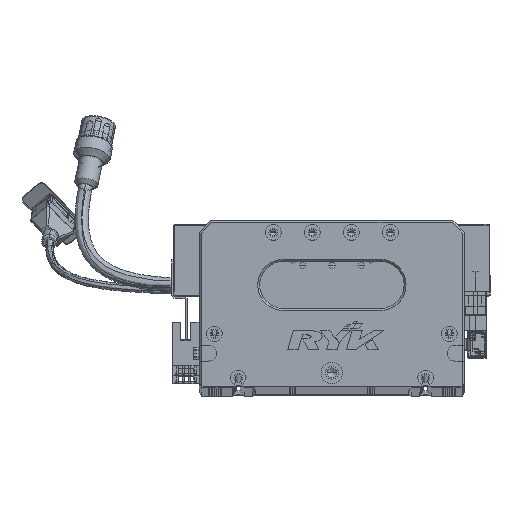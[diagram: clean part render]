
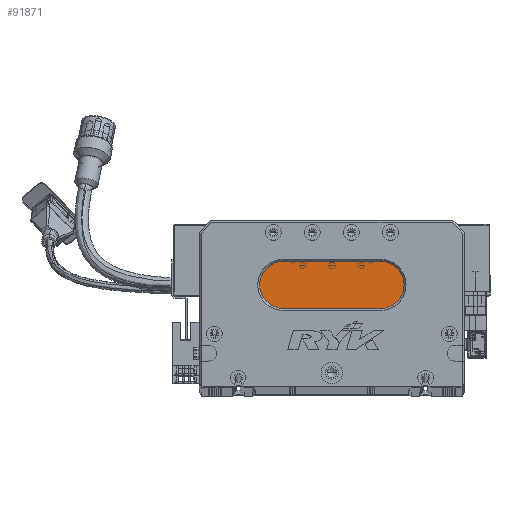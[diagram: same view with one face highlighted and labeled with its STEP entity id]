
A CAD part, top view. The second image highlights one B-rep face of the part: STEP entity #91871.
In plain terms, the highlighted planar face has unit normal (0, 0, 1) as drawn and (0, 0, -1) by its records, which use the part's own axes.
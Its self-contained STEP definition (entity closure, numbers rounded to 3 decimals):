
#415 = ORIENTED_EDGE ( 'NONE', *, *, #46194, .T. ) ;
#3574 = PLANE ( 'NONE',  #50898 ) ;
#5264 = AXIS2_PLACEMENT_3D ( 'NONE', #120471, #43436, #53636 ) ;
#7349 = DIRECTION ( 'NONE',  ( 0., 0., -1. ) ) ;
#14048 = VERTEX_POINT ( 'NONE', #67449 ) ;
#20171 = VERTEX_POINT ( 'NONE', #65445 ) ;
#27130 = LINE ( 'NONE', #31610, #123072 ) ;
#31046 = CARTESIAN_POINT ( 'NONE',  ( 31., 52., 13. ) ) ;
#31610 = CARTESIAN_POINT ( 'NONE',  ( 93., 40., 13. ) ) ;
#32873 = CARTESIAN_POINT ( 'NONE',  ( 93., 52., 13. ) ) ;
#33455 = ORIENTED_EDGE ( 'NONE', *, *, #90472, .T. ) ;
#33861 = VECTOR ( 'NONE', #95402, 1000. ) ;
#34372 = EDGE_CURVE ( 'NONE', #62424, #121423, #98723, .T. ) ;
#40080 = CARTESIAN_POINT ( 'NONE',  ( 93., 40., 13. ) ) ;
#41328 = DIRECTION ( 'NONE',  ( -1., 0., 0. ) ) ;
#43436 = DIRECTION ( 'NONE',  ( 0., 0., -1. ) ) ;
#46194 = EDGE_CURVE ( 'NONE', #108755, #20171, #27130, .T. ) ;
#50898 = AXIS2_PLACEMENT_3D ( 'NONE', #32873, #110728, #72471 ) ;
#52391 = CIRCLE ( 'NONE', #58515, 12. ) ;
#53636 = DIRECTION ( 'NONE',  ( -1., 0., 0. ) ) ;
#58515 = AXIS2_PLACEMENT_3D ( 'NONE', #123157, #114599, #95093 ) ;
#62424 = VERTEX_POINT ( 'NONE', #31046 ) ;
#63643 = ORIENTED_EDGE ( 'NONE', *, *, #92066, .T. ) ;
#65445 = CARTESIAN_POINT ( 'NONE',  ( 43., 40., 13. ) ) ;
#67449 = CARTESIAN_POINT ( 'NONE',  ( 93., 64., 13. ) ) ;
#71118 = CARTESIAN_POINT ( 'NONE',  ( 43., 64., 13. ) ) ;
#72471 = DIRECTION ( 'NONE',  ( -1., 0., 0. ) ) ;
#72691 = ORIENTED_EDGE ( 'NONE', *, *, #34372, .T. ) ;
#73682 = AXIS2_PLACEMENT_3D ( 'NONE', #123000, #7349, #113612 ) ;
#90472 = EDGE_CURVE ( 'NONE', #20171, #62424, #123867, .T. ) ;
#91831 = LINE ( 'NONE', #104729, #33861 ) ;
#91871 = ADVANCED_FACE ( 'NONE', ( #102426 ), #3574, .T. ) ;
#92066 = EDGE_CURVE ( 'NONE', #121423, #14048, #91831, .T. ) ;
#95093 = DIRECTION ( 'NONE',  ( -1., 0., 0. ) ) ;
#95402 = DIRECTION ( 'NONE',  ( 1., 0., 0. ) ) ;
#98723 = CIRCLE ( 'NONE', #5264, 12. ) ;
#102426 = FACE_OUTER_BOUND ( 'NONE', #111071, .T. ) ;
#104729 = CARTESIAN_POINT ( 'NONE',  ( 93., 64., 13. ) ) ;
#108755 = VERTEX_POINT ( 'NONE', #40080 ) ;
#110728 = DIRECTION ( 'NONE',  ( 0., 0., -1. ) ) ;
#111071 = EDGE_LOOP ( 'NONE', ( #121977, #415, #33455, #72691, #63643 ) ) ;
#113612 = DIRECTION ( 'NONE',  ( -1., 0., 0. ) ) ;
#114599 = DIRECTION ( 'NONE',  ( 0., 0., -1. ) ) ;
#120471 = CARTESIAN_POINT ( 'NONE',  ( 43., 52., 13. ) ) ;
#121423 = VERTEX_POINT ( 'NONE', #71118 ) ;
#121977 = ORIENTED_EDGE ( 'NONE', *, *, #125213, .T. ) ;
#123000 = CARTESIAN_POINT ( 'NONE',  ( 43., 52., 13. ) ) ;
#123072 = VECTOR ( 'NONE', #41328, 1000. ) ;
#123157 = CARTESIAN_POINT ( 'NONE',  ( 93., 52., 13. ) ) ;
#123867 = CIRCLE ( 'NONE', #73682, 12. ) ;
#125213 = EDGE_CURVE ( 'NONE', #14048, #108755, #52391, .T. ) ;
